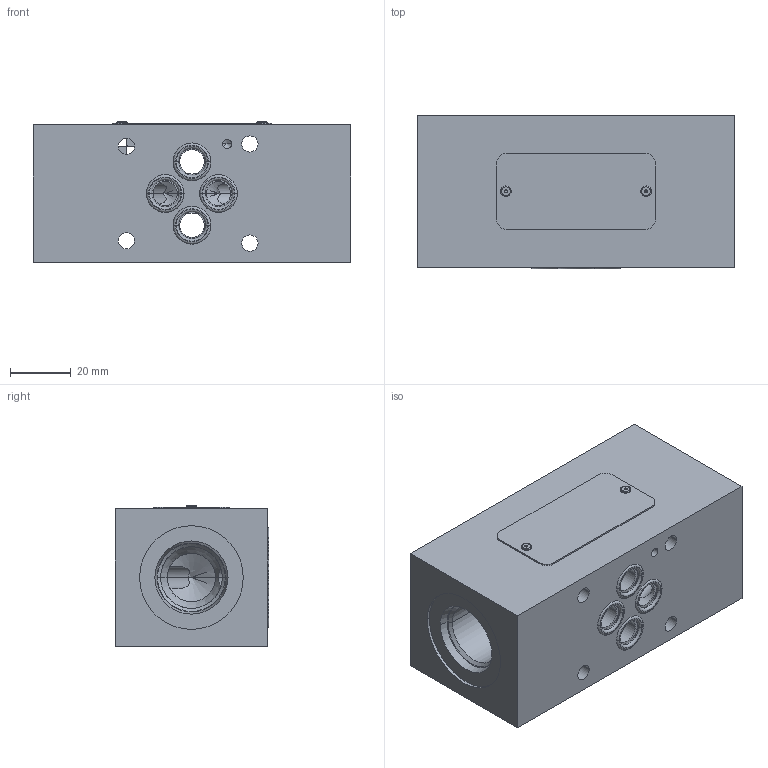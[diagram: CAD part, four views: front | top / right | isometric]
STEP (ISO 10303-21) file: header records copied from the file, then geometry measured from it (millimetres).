
FILE_DESCRIPTION((''),'2;1');
FILE_NAME('1000014180_ASM','2023-10-12T',('l.soukupova'),(''),'PRO/ENGINEER BY PARAMETRIC TECHNOLOGY CORPORATION, 2015440','PRO/ENGINEER BY PARAMETRIC TECHNOLOGY CORPORATION, 2015440','');
FILE_SCHEMA(('AUTOMOTIVE_DESIGN { 1 0 10303 214 1 1 1 1 }'));
Length unit declared in the file: millimetre
Products named in the file (8): 30119602; RD_LABEL_25X52_159703; AF_1932_16485; ORAR00012_201524_AF36; ORAR00012_201524_AF37; ORAR00012_201524_AF38; ORAR00012_201524_AF39; 1000014180_ASM
Assembly tree (8 placements, depth 2):
  1000014180_ASM
    30119602
    RD_LABEL_25X52_159703
    AF_1932_16485  x2
    ORAR00012_201524_AF36
    ORAR00012_201524_AF37
    ORAR00012_201524_AF38
    ORAR00012_201524_AF39
Bounding box: 104 x 50.38 x 46 mm (x, y, z)
Volume: 196923.8 mm3; surface area: 41841.3 mm2
Topology: 8 solids, 12 shells, 191 faces, 578 edges, 477 vertices
Faces by surface type: cylinder 92, plane 36, torus 36, cone 27
Entity records: 10552 total; most frequent: CARTESIAN_POINT 1960, DIRECTION 1250, ORIENTED_EDGE 810, PRESENTATION_STYLE_ASSIGNMENT 697, STYLED_ITEM 601, CURVE_STYLE 591, AXIS2_PLACEMENT_3D 505, EDGE_CURVE 413
